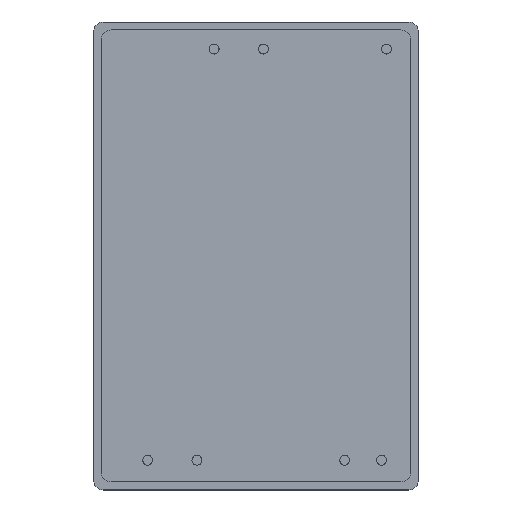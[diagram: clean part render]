
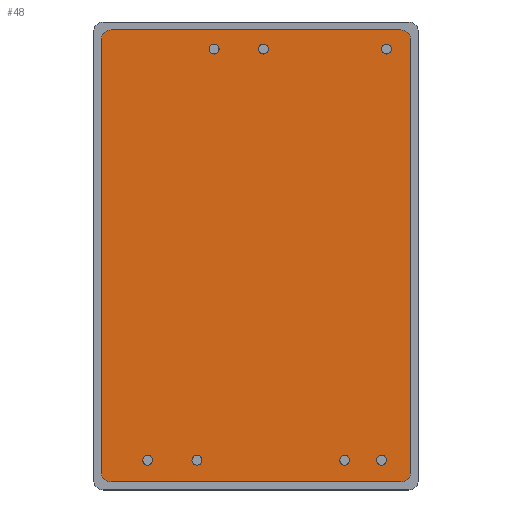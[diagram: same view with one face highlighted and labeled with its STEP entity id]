
A CAD part, top view. The second image highlights one B-rep face of the part: STEP entity #48.
In plain terms, the highlighted planar face has unit normal (0, 0, 1).
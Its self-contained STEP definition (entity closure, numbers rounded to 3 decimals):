
#48=ADVANCED_FACE('',(#89,#91,#93,#95,#97,#99,#101,#103),#105,.T.);
#89=FACE_BOUND('',#90,.T.);
#90=EDGE_LOOP('',(#406,#407,#408,#409,#410,#411,#412,#413));
#91=FACE_BOUND('',#92,.T.);
#92=EDGE_LOOP('',(#414));
#93=FACE_BOUND('',#94,.T.);
#94=EDGE_LOOP('',(#415));
#95=FACE_BOUND('',#96,.T.);
#96=EDGE_LOOP('',(#416));
#97=FACE_BOUND('',#98,.T.);
#98=EDGE_LOOP('',(#417));
#99=FACE_BOUND('',#100,.T.);
#100=EDGE_LOOP('',(#418));
#101=FACE_BOUND('',#102,.T.);
#102=EDGE_LOOP('',(#419));
#103=FACE_BOUND('',#104,.T.);
#104=EDGE_LOOP('',(#420));
#105=PLANE('',#106);
#106=AXIS2_PLACEMENT_3D('',#107,#108,#109);
#107=CARTESIAN_POINT('',(0.,0.,10.1));
#108=DIRECTION('',(0.,0.,1.));
#109=DIRECTION('',(0.,1.,0.));
#406=ORIENTED_EDGE('',*,*,#554,.F.);
#407=ORIENTED_EDGE('',*,*,#555,.T.);
#408=ORIENTED_EDGE('',*,*,#556,.F.);
#409=ORIENTED_EDGE('',*,*,#557,.T.);
#410=ORIENTED_EDGE('',*,*,#558,.F.);
#411=ORIENTED_EDGE('',*,*,#559,.T.);
#412=ORIENTED_EDGE('',*,*,#560,.F.);
#413=ORIENTED_EDGE('',*,*,#561,.T.);
#414=ORIENTED_EDGE('',*,*,#562,.F.);
#415=ORIENTED_EDGE('',*,*,#563,.F.);
#416=ORIENTED_EDGE('',*,*,#564,.F.);
#417=ORIENTED_EDGE('',*,*,#565,.F.);
#418=ORIENTED_EDGE('',*,*,#566,.F.);
#419=ORIENTED_EDGE('',*,*,#567,.F.);
#420=ORIENTED_EDGE('',*,*,#568,.F.);
#554=EDGE_CURVE('',#628,#629,#630,.F.);
#555=EDGE_CURVE('',#628,#631,#632,.T.);
#556=EDGE_CURVE('',#633,#631,#634,.F.);
#557=EDGE_CURVE('',#633,#635,#636,.T.);
#558=EDGE_CURVE('',#637,#635,#638,.F.);
#559=EDGE_CURVE('',#637,#639,#640,.T.);
#560=EDGE_CURVE('',#641,#639,#642,.F.);
#561=EDGE_CURVE('',#641,#629,#643,.T.);
#562=EDGE_CURVE('',#644,#644,#645,.T.);
#563=EDGE_CURVE('',#646,#646,#647,.T.);
#564=EDGE_CURVE('',#648,#648,#649,.T.);
#565=EDGE_CURVE('',#650,#650,#651,.T.);
#566=EDGE_CURVE('',#652,#652,#653,.T.);
#567=EDGE_CURVE('',#654,#654,#655,.T.);
#568=EDGE_CURVE('',#656,#656,#657,.T.);
#628=VERTEX_POINT('',#752);
#629=VERTEX_POINT('',#753);
#630=CIRCLE('',#754,1.);
#631=VERTEX_POINT('',#758);
#632=LINE('',#759,#760);
#633=VERTEX_POINT('',#762);
#634=CIRCLE('',#763,1.);
#635=VERTEX_POINT('',#767);
#636=LINE('',#768,#769);
#637=VERTEX_POINT('',#771);
#638=CIRCLE('',#772,1.);
#639=VERTEX_POINT('',#776);
#640=LINE('',#777,#778);
#641=VERTEX_POINT('',#780);
#642=CIRCLE('',#781,1.);
#643=LINE('',#785,#786);
#644=VERTEX_POINT('',#788);
#645=CIRCLE('',#789,0.5);
#646=VERTEX_POINT('',#793);
#647=CIRCLE('',#794,0.5);
#648=VERTEX_POINT('',#798);
#649=CIRCLE('',#799,0.5);
#650=VERTEX_POINT('',#803);
#651=CIRCLE('',#804,0.5);
#652=VERTEX_POINT('',#808);
#653=CIRCLE('',#809,0.5);
#654=VERTEX_POINT('',#813);
#655=CIRCLE('',#814,0.5);
#656=VERTEX_POINT('',#818);
#657=CIRCLE('',#819,0.5);
#752=CARTESIAN_POINT('',(15.7,-21.95,10.1));
#753=CARTESIAN_POINT('',(14.7,-22.95,10.1));
#754=AXIS2_PLACEMENT_3D('',#755,#756,#757);
#755=CARTESIAN_POINT('',(14.7,-21.95,10.1));
#756=DIRECTION('',(0.,0.,1.));
#757=DIRECTION('',(0.,-1.,0.));
#758=CARTESIAN_POINT('',(15.7,21.95,10.1));
#759=CARTESIAN_POINT('',(15.7,-21.95,10.1));
#760=VECTOR('',#761,1.);
#761=DIRECTION('',(0.,1.,0.));
#762=CARTESIAN_POINT('',(14.7,22.95,10.1));
#763=AXIS2_PLACEMENT_3D('',#764,#765,#766);
#764=CARTESIAN_POINT('',(14.7,21.95,10.1));
#765=DIRECTION('',(0.,0.,1.));
#766=DIRECTION('',(1.,0.,0.));
#767=CARTESIAN_POINT('',(-14.7,22.95,10.1));
#768=CARTESIAN_POINT('',(14.7,22.95,10.1));
#769=VECTOR('',#770,1.);
#770=DIRECTION('',(-1.,0.,0.));
#771=CARTESIAN_POINT('',(-15.7,21.95,10.1));
#772=AXIS2_PLACEMENT_3D('',#773,#774,#775);
#773=CARTESIAN_POINT('',(-14.7,21.95,10.1));
#774=DIRECTION('',(0.,0.,1.));
#775=DIRECTION('',(0.,1.,0.));
#776=CARTESIAN_POINT('',(-15.7,-21.95,10.1));
#777=CARTESIAN_POINT('',(-15.7,21.95,10.1));
#778=VECTOR('',#779,1.);
#779=DIRECTION('',(0.,-1.,0.));
#780=CARTESIAN_POINT('',(-14.7,-22.95,10.1));
#781=AXIS2_PLACEMENT_3D('',#782,#783,#784);
#782=CARTESIAN_POINT('',(-14.7,-21.95,10.1));
#783=DIRECTION('',(0.,0.,1.));
#784=DIRECTION('',(-1.,0.,0.));
#785=CARTESIAN_POINT('',(-14.7,-22.95,10.1));
#786=VECTOR('',#787,1.);
#787=DIRECTION('',(1.,0.,0.));
#788=CARTESIAN_POINT('',(9.,-20.25,10.1));
#789=AXIS2_PLACEMENT_3D('',#790,#791,#792);
#790=CARTESIAN_POINT('',(9.,-20.75,10.1));
#791=DIRECTION('',(0.,0.,1.));
#792=DIRECTION('',(0.,1.,0.));
#793=CARTESIAN_POINT('',(-6.,-20.25,10.1));
#794=AXIS2_PLACEMENT_3D('',#795,#796,#797);
#795=CARTESIAN_POINT('',(-6.,-20.75,10.1));
#796=DIRECTION('',(0.,0.,1.));
#797=DIRECTION('',(0.,1.,0.));
#798=CARTESIAN_POINT('',(-11.,-20.25,10.1));
#799=AXIS2_PLACEMENT_3D('',#800,#801,#802);
#800=CARTESIAN_POINT('',(-11.,-20.75,10.1));
#801=DIRECTION('',(0.,0.,1.));
#802=DIRECTION('',(0.,1.,0.));
#803=CARTESIAN_POINT('',(13.25,21.5,10.1));
#804=AXIS2_PLACEMENT_3D('',#805,#806,#807);
#805=CARTESIAN_POINT('',(13.25,21.,10.1));
#806=DIRECTION('',(0.,0.,1.));
#807=DIRECTION('',(0.,1.,0.));
#808=CARTESIAN_POINT('',(0.75,21.5,10.1));
#809=AXIS2_PLACEMENT_3D('',#810,#811,#812);
#810=CARTESIAN_POINT('',(0.75,21.,10.1));
#811=DIRECTION('',(0.,0.,1.));
#812=DIRECTION('',(0.,1.,0.));
#813=CARTESIAN_POINT('',(-4.25,21.5,10.1));
#814=AXIS2_PLACEMENT_3D('',#815,#816,#817);
#815=CARTESIAN_POINT('',(-4.25,21.,10.1));
#816=DIRECTION('',(0.,0.,1.));
#817=DIRECTION('',(0.,1.,0.));
#818=CARTESIAN_POINT('',(12.75,-20.25,10.1));
#819=AXIS2_PLACEMENT_3D('',#820,#821,#822);
#820=CARTESIAN_POINT('',(12.75,-20.75,10.1));
#821=DIRECTION('',(0.,0.,1.));
#822=DIRECTION('',(0.,1.,0.));
